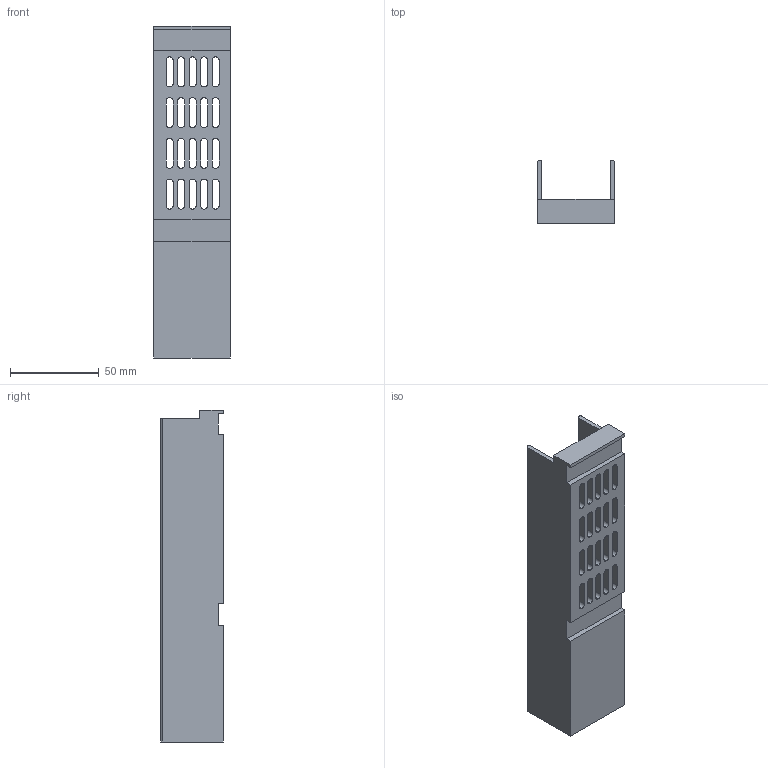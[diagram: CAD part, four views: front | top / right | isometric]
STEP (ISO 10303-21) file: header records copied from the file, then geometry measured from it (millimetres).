
FILE_DESCRIPTION(('Open CASCADE Model'),'2;1');
FILE_NAME('Open CASCADE Shape Model','2026-10-27T20:54:52',('Author'),( 'Open CASCADE'),'Open CASCADE STEP processor 7.9','Open CASCADE 7.9' ,'Unknown');
FILE_SCHEMA(('AUTOMOTIVE_DESIGN { 1 0 10303 214 1 1 1 1 }'));
Length unit declared in the file: millimetre
Products named in the file (1): Open CASCADE STEP translator 7.9 1
Bounding box: 43.3 x 35.4 x 187.4 mm (x, y, z)
Volume: 61085 mm3; surface area: 43623.2 mm2
Topology: 1 solids, 1 shells, 197 faces, 588 edges, 392 vertices
Faces by surface type: plane 113, cylinder 84
Entity records: 14010 total; most frequent: CARTESIAN_POINT 2786, DIRECTION 1926, ORIENTED_EDGE 1176, PCURVE 1176, DEFINITIONAL_REPRESENTATION 1176, LINE 1032, VECTOR 1032, EDGE_CURVE 588
